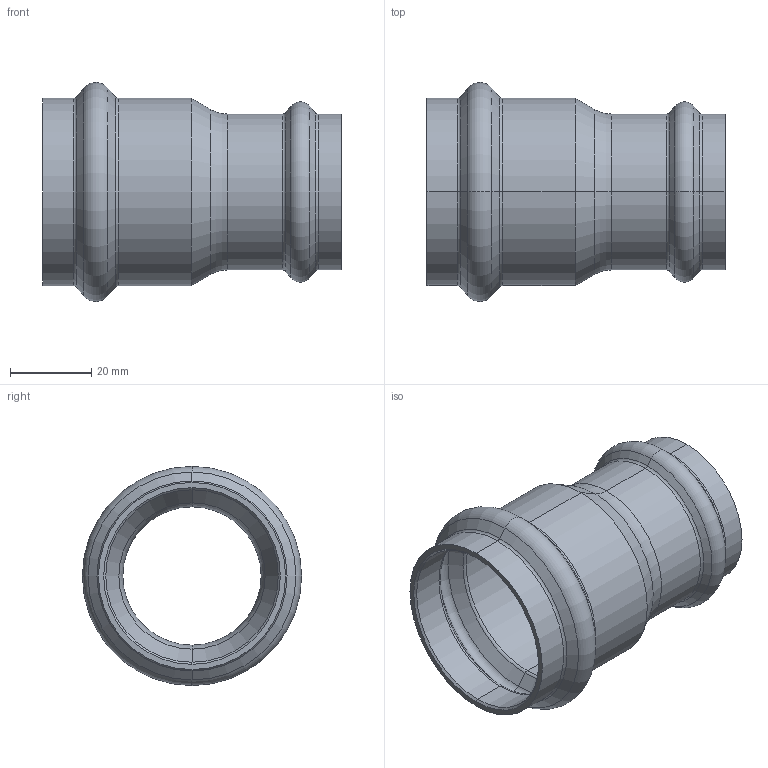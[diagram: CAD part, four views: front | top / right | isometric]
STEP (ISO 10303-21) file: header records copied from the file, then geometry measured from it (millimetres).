
FILE_DESCRIPTION (( 'STEP AP203' ), '1' );
FILE_NAME ('SP5240 42-35.STEP', '2017-04-24T08:41:51', ( '' ), ( '' ), 'SwSTEP 2.0', 'SolidWorks 2016', '' );
FILE_SCHEMA (( 'CONFIG_CONTROL_DESIGN' ));
Length unit declared in the file: millimetre
Products named in the file (1): SP5240 42-35
Bounding box: 73.25 x 53.86 x 53.86 mm (x, y, z)
Volume: 18121.4 mm3; surface area: 21391.9 mm2
Topology: 1 solids, 1 shells, 72 faces, 144 edges, 74 vertices
Faces by surface type: torus 30, cone 24, cylinder 16, plane 2
Entity records: 1925 total; most frequent: DIRECTION 394, CARTESIAN_POINT 291, ORIENTED_EDGE 288, AXIS2_PLACEMENT_3D 177, EDGE_CURVE 144, CIRCLE 104, VERTEX_POINT 74, EDGE_LOOP 74
